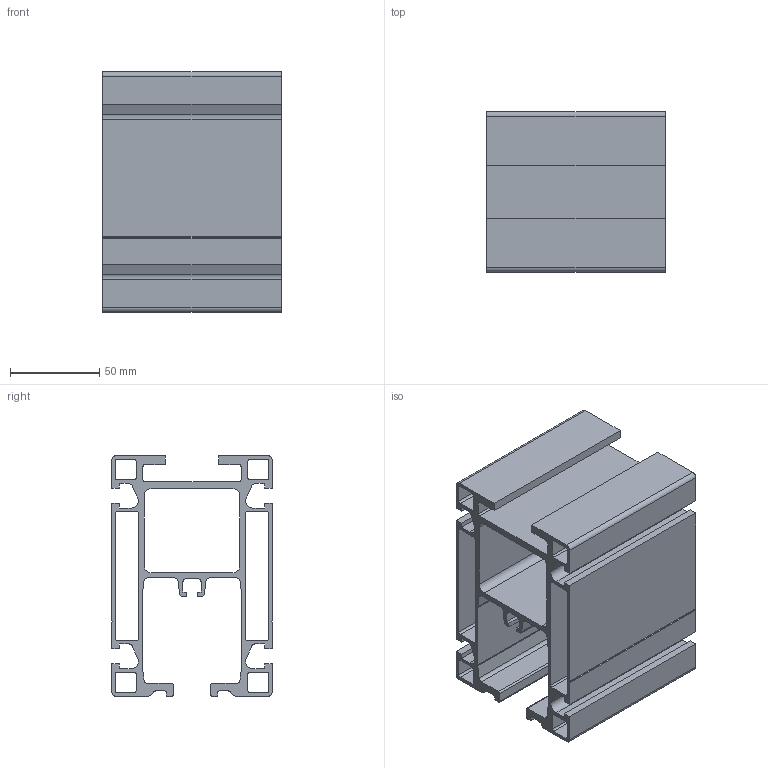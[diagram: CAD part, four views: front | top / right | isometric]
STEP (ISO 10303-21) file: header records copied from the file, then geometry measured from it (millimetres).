
FILE_DESCRIPTION (( 'STEP AP214' ), '1' );
FILE_NAME ('900.135.090.STEP', '2020-07-23T09:04:19', ( '' ), ( '' ), 'SwSTEP 2.0', 'SolidWorks 2018', '' );
FILE_SCHEMA (( 'AUTOMOTIVE_DESIGN' ));
Length unit declared in the file: millimetre
Products named in the file (1): 900.135.090
Bounding box: 100 x 90 x 135 mm (x, y, z)
Volume: 247679.3 mm3; surface area: 166958.5 mm2
Topology: 1 solids, 1 shells, 182 faces, 540 edges, 360 vertices
Faces by surface type: plane 112, cylinder 70
Entity records: 6166 total; most frequent: CARTESIAN_POINT 1083, ORIENTED_EDGE 1080, DIRECTION 1046, EDGE_CURVE 540, VECTOR 400, LINE 400, VERTEX_POINT 360, AXIS2_PLACEMENT_3D 323
